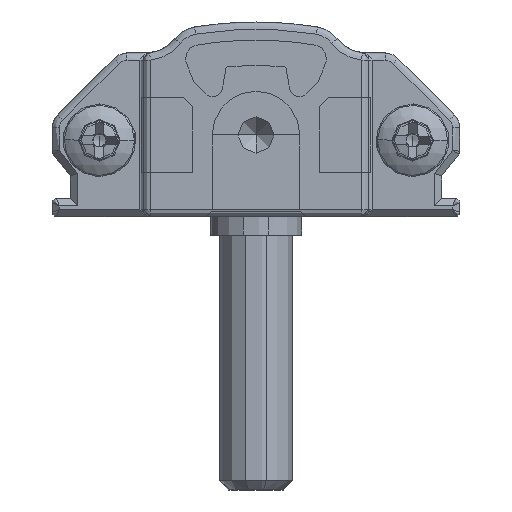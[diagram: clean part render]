
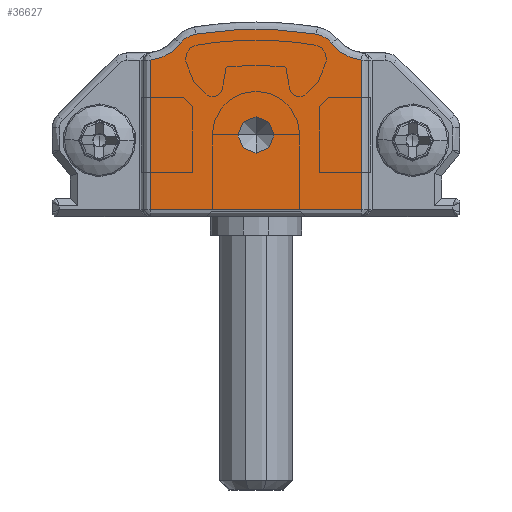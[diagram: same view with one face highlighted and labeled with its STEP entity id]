
A CAD part, front view. The second image highlights one B-rep face of the part: STEP entity #36627.
In plain terms, the highlighted planar face has unit normal (0, -1, 0).
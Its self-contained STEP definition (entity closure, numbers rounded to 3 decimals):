
#961 = VERTEX_POINT ( 'NONE', #29015 ) ;
#1362 = EDGE_CURVE ( 'NONE', #10751, #30685, #1621, .T. ) ;
#1621 = CIRCLE ( 'NONE', #7703, 1. ) ;
#1711 = FACE_OUTER_BOUND ( 'NONE', #15623, .T. ) ;
#3115 = EDGE_LOOP ( 'NONE', ( #27845, #8610 ) ) ;
#4391 = CIRCLE ( 'NONE', #32410, 20.676 ) ;
#4466 = CARTESIAN_POINT ( 'NONE',  ( 17., -15., 0.4 ) ) ;
#5773 = CARTESIAN_POINT ( 'NONE',  ( 22.15, -15., 3.606 ) ) ;
#6395 = DIRECTION ( 'NONE',  ( 0., 1., 0. ) ) ;
#7156 = ORIENTED_EDGE ( 'NONE', *, *, #23710, .T. ) ;
#7356 = VERTEX_POINT ( 'NONE', #15975 ) ;
#7703 = AXIS2_PLACEMENT_3D ( 'NONE', #42019, #9277, #27947 ) ;
#7811 = EDGE_CURVE ( 'NONE', #30685, #10751, #18532, .T. ) ;
#8102 = ORIENTED_EDGE ( 'NONE', *, *, #16307, .T. ) ;
#8601 = DIRECTION ( 'NONE',  ( 0., 0., -1. ) ) ;
#8610 = ORIENTED_EDGE ( 'NONE', *, *, #1362, .F. ) ;
#8956 = VERTEX_POINT ( 'NONE', #35759 ) ;
#9277 = DIRECTION ( 'NONE',  ( 0., -1., 0. ) ) ;
#9687 = CARTESIAN_POINT ( 'NONE',  ( 15.332, -15., 9.541 ) ) ;
#9804 = EDGE_CURVE ( 'NONE', #961, #34814, #32213, .T. ) ;
#10751 = VERTEX_POINT ( 'NONE', #27475 ) ;
#11866 = DIRECTION ( 'NONE',  ( 1., 0., 0. ) ) ;
#12598 = ORIENTED_EDGE ( 'NONE', *, *, #44609, .T. ) ;
#12665 = DIRECTION ( 'NONE',  ( 0., 1., 0. ) ) ;
#12902 = FACE_BOUND ( 'NONE', #3115, .T. ) ;
#13621 = DIRECTION ( 'NONE',  ( 0., -1., 0. ) ) ;
#13950 = DIRECTION ( 'NONE',  ( 0., -1., 0. ) ) ;
#14363 = AXIS2_PLACEMENT_3D ( 'NONE', #24540, #13950, #24994 ) ;
#15102 = DIRECTION ( 'NONE',  ( 0., 0., 1. ) ) ;
#15623 = EDGE_LOOP ( 'NONE', ( #23211, #8102, #22112, #24464, #12598, #29171, #7156, #46153 ) ) ;
#15975 = CARTESIAN_POINT ( 'NONE',  ( 17., -15., 8.612 ) ) ;
#16307 = EDGE_CURVE ( 'NONE', #7356, #18865, #37682, .T. ) ;
#16431 = DIRECTION ( 'NONE',  ( 0., 0., -1. ) ) ;
#17197 = CIRCLE ( 'NONE', #36884, 1.3 ) ;
#17220 = AXIS2_PLACEMENT_3D ( 'NONE', #38651, #6395, #28408 ) ;
#18532 = CIRCLE ( 'NONE', #38226, 1. ) ;
#18702 = LINE ( 'NONE', #4466, #41938 ) ;
#18865 = VERTEX_POINT ( 'NONE', #9687 ) ;
#20588 = AXIS2_PLACEMENT_3D ( 'NONE', #5773, #38263, #42065 ) ;
#20864 = VERTEX_POINT ( 'NONE', #28974 ) ;
#22093 = VERTEX_POINT ( 'NONE', #33718 ) ;
#22112 = ORIENTED_EDGE ( 'NONE', *, *, #42570, .T. ) ;
#23150 = EDGE_CURVE ( 'NONE', #22093, #7356, #36463, .T. ) ;
#23211 = ORIENTED_EDGE ( 'NONE', *, *, #23150, .T. ) ;
#23710 = EDGE_CURVE ( 'NONE', #34814, #26012, #45175, .T. ) ;
#23737 = PLANE ( 'NONE',  #20588 ) ;
#24464 = ORIENTED_EDGE ( 'NONE', *, *, #39582, .T. ) ;
#24540 = CARTESIAN_POINT ( 'NONE',  ( 8.1, -15., 8.75 ) ) ;
#24571 = AXIS2_PLACEMENT_3D ( 'NONE', #34921, #12665, #16431 ) ;
#24994 = DIRECTION ( 'NONE',  ( 0., 0., -1. ) ) ;
#26012 = VERTEX_POINT ( 'NONE', #37808 ) ;
#26206 = DIRECTION ( 'NONE',  ( 0., 0., -1. ) ) ;
#26430 = CARTESIAN_POINT ( 'NONE',  ( 11.2, -15., -10.376 ) ) ;
#26671 = DIRECTION ( 'NONE',  ( 0., -1., 0. ) ) ;
#27475 = CARTESIAN_POINT ( 'NONE',  ( 11.2, -15., 5.5 ) ) ;
#27845 = ORIENTED_EDGE ( 'NONE', *, *, #7811, .F. ) ;
#27947 = DIRECTION ( 'NONE',  ( 0., 0., -1. ) ) ;
#28252 = VECTOR ( 'NONE', #8601, 1000. ) ;
#28408 = DIRECTION ( 'NONE',  ( 0., 0., -1. ) ) ;
#28974 = CARTESIAN_POINT ( 'NONE',  ( 14.508, -15., 10.034 ) ) ;
#29015 = CARTESIAN_POINT ( 'NONE',  ( 7.068, -15., 9.541 ) ) ;
#29171 = ORIENTED_EDGE ( 'NONE', *, *, #9804, .T. ) ;
#30165 = DIRECTION ( 'NONE',  ( 0., -1., 0. ) ) ;
#30685 = VERTEX_POINT ( 'NONE', #40435 ) ;
#31387 = VECTOR ( 'NONE', #15102, 1000. ) ;
#32213 = CIRCLE ( 'NONE', #24571, 2.4 ) ;
#32410 = AXIS2_PLACEMENT_3D ( 'NONE', #26430, #26671, #26206 ) ;
#33137 = CARTESIAN_POINT ( 'NONE',  ( 17., -15., 8.612 ) ) ;
#33718 = CARTESIAN_POINT ( 'NONE',  ( 17., -15., 0.4 ) ) ;
#34814 = VERTEX_POINT ( 'NONE', #35012 ) ;
#34921 = CARTESIAN_POINT ( 'NONE',  ( 5.162, -15., 11. ) ) ;
#35012 = CARTESIAN_POINT ( 'NONE',  ( 5.4, -15., 8.612 ) ) ;
#35759 = CARTESIAN_POINT ( 'NONE',  ( 7.892, -15., 10.034 ) ) ;
#36463 = LINE ( 'NONE', #33137, #31387 ) ;
#36627 = ADVANCED_FACE ( 'NONE', ( #1711, #12902 ), #23737, .T. ) ;
#36884 = AXIS2_PLACEMENT_3D ( 'NONE', #38524, #13621, #39448 ) ;
#37288 = DIRECTION ( 'NONE',  ( 0., 0., -1. ) ) ;
#37682 = CIRCLE ( 'NONE', #17220, 2.4 ) ;
#37808 = CARTESIAN_POINT ( 'NONE',  ( 5.4, -15., 0.4 ) ) ;
#38226 = AXIS2_PLACEMENT_3D ( 'NONE', #44197, #30165, #37288 ) ;
#38263 = DIRECTION ( 'NONE',  ( 0., -1., 0. ) ) ;
#38524 = CARTESIAN_POINT ( 'NONE',  ( 14.3, -15., 8.75 ) ) ;
#38651 = CARTESIAN_POINT ( 'NONE',  ( 17.238, -15., 11. ) ) ;
#39448 = DIRECTION ( 'NONE',  ( 0., 0., -1. ) ) ;
#39582 = EDGE_CURVE ( 'NONE', #20864, #8956, #4391, .T. ) ;
#40435 = CARTESIAN_POINT ( 'NONE',  ( 11.2, -15., 3.5 ) ) ;
#40852 = EDGE_CURVE ( 'NONE', #26012, #22093, #18702, .T. ) ;
#41938 = VECTOR ( 'NONE', #11866, 1000. ) ;
#42019 = CARTESIAN_POINT ( 'NONE',  ( 11.2, -15., 4.5 ) ) ;
#42065 = DIRECTION ( 'NONE',  ( 0., 0., -1. ) ) ;
#42570 = EDGE_CURVE ( 'NONE', #18865, #20864, #17197, .T. ) ;
#44197 = CARTESIAN_POINT ( 'NONE',  ( 11.2, -15., 4.5 ) ) ;
#44609 = EDGE_CURVE ( 'NONE', #8956, #961, #45434, .T. ) ;
#44921 = CARTESIAN_POINT ( 'NONE',  ( 5.4, -15., 0.4 ) ) ;
#45175 = LINE ( 'NONE', #44921, #28252 ) ;
#45434 = CIRCLE ( 'NONE', #14363, 1.3 ) ;
#46153 = ORIENTED_EDGE ( 'NONE', *, *, #40852, .T. ) ;
